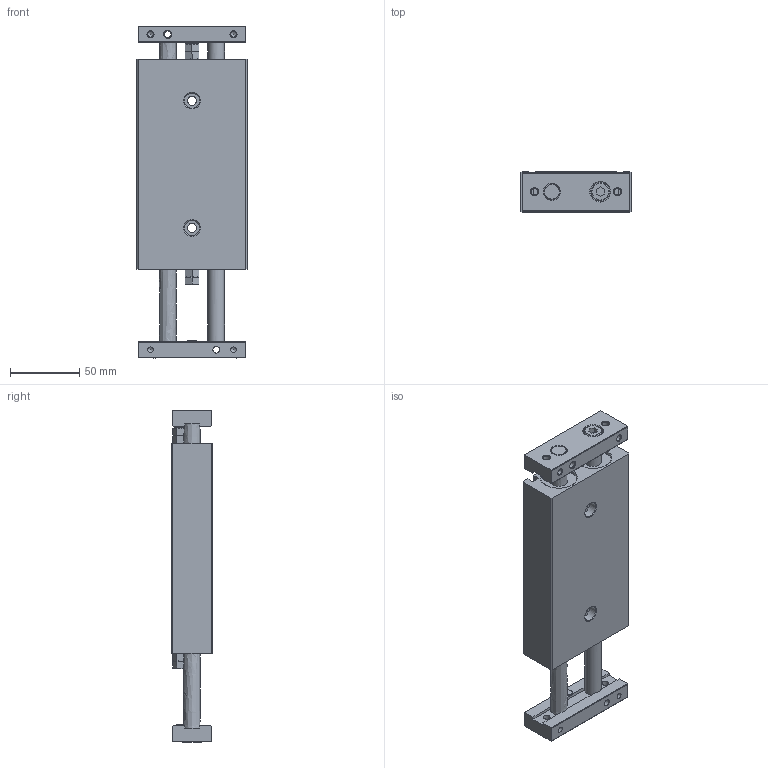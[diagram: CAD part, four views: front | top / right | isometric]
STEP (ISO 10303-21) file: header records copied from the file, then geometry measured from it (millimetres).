
FILE_DESCRIPTION((''),'2;1');
FILE_NAME('I:\3D電子目錄\氣缸\STX\STX\STX25\STX25x40.stp','2007-10-02T09:07:02',('Administrator'),(''),'Autodesk Inventor 11','Autodesk Inventor 11','');
FILE_SCHEMA(('AUTOMOTIVE_DESIGN { 1 0 10303 214 1 1 1 1 }'));
Length unit declared in the file: millimetre
Products named in the file (1): STX25
Bounding box: 80 x 30 x 240 mm (x, y, z)
Volume: 406337.5 mm3; surface area: 69623.1 mm2
Topology: 1 solids, 1 shells, 274 faces, 653 edges, 406 vertices
Faces by surface type: plane 127, cone 75, bspline 46, cylinder 22, torus 4
Full cylindrical faces by diameter (mm): 4.134 x4, 6 x2, 11 x2, 12 x4, 12.2 x2, 13 x2, 14 x2, 26 x2, 27.4 x2
Entity records: 8035 total; most frequent: CARTESIAN_POINT 2555, ORIENTED_EDGE 1058, DIRECTION 1056, EDGE_CURVE 529, EDGE_LOOP 420, AXIS2_PLACEMENT_3D 402, VERTEX_POINT 373, FACE_OUTER_BOUND 274
